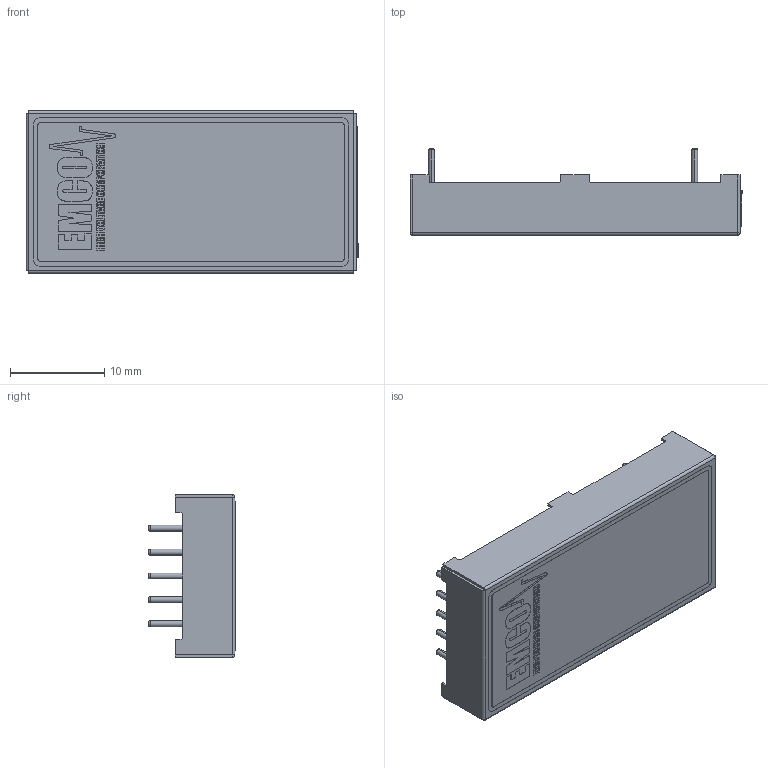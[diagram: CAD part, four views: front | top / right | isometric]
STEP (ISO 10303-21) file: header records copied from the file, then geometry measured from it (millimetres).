
FILE_DESCRIPTION (( 'STEP AP214' ), '1' );
FILE_NAME ('P Series Interface Model.STEP', '2019-08-12T21:59:25', ( '' ), ( '' ), 'SwSTEP 2.0', 'SolidWorks 2019', '' );
FILE_SCHEMA (( 'AUTOMOTIVE_DESIGN' ));
Length unit declared in the file: inch
Products named in the file (1): P Series Interface Model
Bounding box: 35.26 x 9.17 x 17.27 mm (x, y, z)
Volume: 3403.9 mm3; surface area: 5354.5 mm2
Topology: 8 solids, 8 shells, 762 faces, 1997 edges, 1324 vertices
Faces by surface type: plane 546, bspline 136, cylinder 66, torus 14
Entity records: 41224 total; most frequent: CARTESIAN_POINT 13172, ORIENTED_EDGE 3994, DIRECTION 3139, EDGE_CURVE 1997, LINE 1565, VECTOR 1565, VERTEX_POINT 1324, EDGE_LOOP 835
